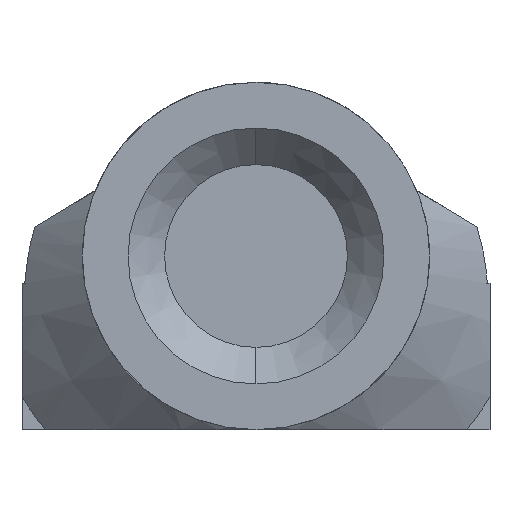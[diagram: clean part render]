
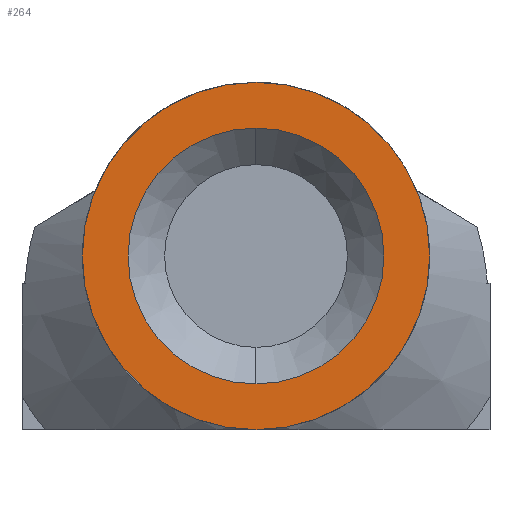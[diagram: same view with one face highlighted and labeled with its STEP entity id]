
A CAD part, left-side view. The second image highlights one B-rep face of the part: STEP entity #264.
In plain terms, the highlighted planar face has unit normal (-1, 0, 0).
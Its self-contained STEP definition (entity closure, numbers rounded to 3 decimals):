
#2 = AXIS2_PLACEMENT_3D ( 'NONE', #405, #406, #407 ) ;
#10 = EDGE_CURVE ( 'NONE', #238, #237, #378, .T. ) ;
#19 = EDGE_CURVE ( 'NONE', #217, #216, #389, .T. ) ;
#45 = EDGE_CURVE ( 'NONE', #216, #217, #554, .T. ) ;
#56 = EDGE_CURVE ( 'NONE', #237, #238, #602, .T. ) ;
#61 = AXIS2_PLACEMENT_3D ( 'NONE', #209, #449, #450 ) ;
#70 = AXIS2_PLACEMENT_3D ( 'NONE', #511, #563, #564 ) ;
#75 = AXIS2_PLACEMENT_3D ( 'NONE', #633, #659, #660 ) ;
#91 = AXIS2_PLACEMENT_3D ( 'NONE', #159, #162, #163 ) ;
#159 = CARTESIAN_POINT ( 'NONE',  ( -33., 0., 4.75 ) ) ;
#160 = PLANE ( 'NONE',  #91 ) ;
#162 = DIRECTION ( 'NONE',  ( -1., 0., 0. ) ) ;
#163 = DIRECTION ( 'NONE',  ( 0., 0., 1. ) ) ;
#209 = CARTESIAN_POINT ( 'NONE',  ( -33., 0., 4.75 ) ) ;
#216 = VERTEX_POINT ( 'NONE', #676 ) ;
#217 = VERTEX_POINT ( 'NONE', #680 ) ;
#237 = VERTEX_POINT ( 'NONE', #697 ) ;
#238 = VERTEX_POINT ( 'NONE', #698 ) ;
#264 = ADVANCED_FACE ( 'NONE', ( #620, #625 ), #160, .T. ) ;
#308 = EDGE_LOOP ( 'NONE', ( #337, #338 ) ) ;
#315 = EDGE_LOOP ( 'NONE', ( #339, #340 ) ) ;
#337 = ORIENTED_EDGE ( 'NONE', *, *, #10, .T. ) ;
#338 = ORIENTED_EDGE ( 'NONE', *, *, #56, .T. ) ;
#339 = ORIENTED_EDGE ( 'NONE', *, *, #19, .T. ) ;
#340 = ORIENTED_EDGE ( 'NONE', *, *, #45, .T. ) ;
#378 = CIRCLE ( 'NONE', #2, 3.5 ) ;
#389 = CIRCLE ( 'NONE', #61, 4.75 ) ;
#405 = CARTESIAN_POINT ( 'NONE',  ( -33., 0., 4.75 ) ) ;
#406 = DIRECTION ( 'NONE',  ( 1., 0., 0. ) ) ;
#407 = DIRECTION ( 'NONE',  ( 0., 0., 1. ) ) ;
#449 = DIRECTION ( 'NONE',  ( -1., 0., 0. ) ) ;
#450 = DIRECTION ( 'NONE',  ( 0., 0., 1. ) ) ;
#511 = CARTESIAN_POINT ( 'NONE',  ( -33., 0., 4.75 ) ) ;
#554 = CIRCLE ( 'NONE', #70, 4.75 ) ;
#563 = DIRECTION ( 'NONE',  ( -1., 0., 0. ) ) ;
#564 = DIRECTION ( 'NONE',  ( 0., 0., 1. ) ) ;
#602 = CIRCLE ( 'NONE', #75, 3.5 ) ;
#620 = FACE_BOUND ( 'NONE', #308, .T. ) ;
#625 = FACE_OUTER_BOUND ( 'NONE', #315, .T. ) ;
#633 = CARTESIAN_POINT ( 'NONE',  ( -33., 0., 4.75 ) ) ;
#659 = DIRECTION ( 'NONE',  ( 1., 0., 0. ) ) ;
#660 = DIRECTION ( 'NONE',  ( 0., 0., 1. ) ) ;
#676 = CARTESIAN_POINT ( 'NONE',  ( -33., 0., 0. ) ) ;
#680 = CARTESIAN_POINT ( 'NONE',  ( -33., 0., 9.5 ) ) ;
#697 = CARTESIAN_POINT ( 'NONE',  ( -33., 0., 1.25 ) ) ;
#698 = CARTESIAN_POINT ( 'NONE',  ( -33., 0., 8.25 ) ) ;
